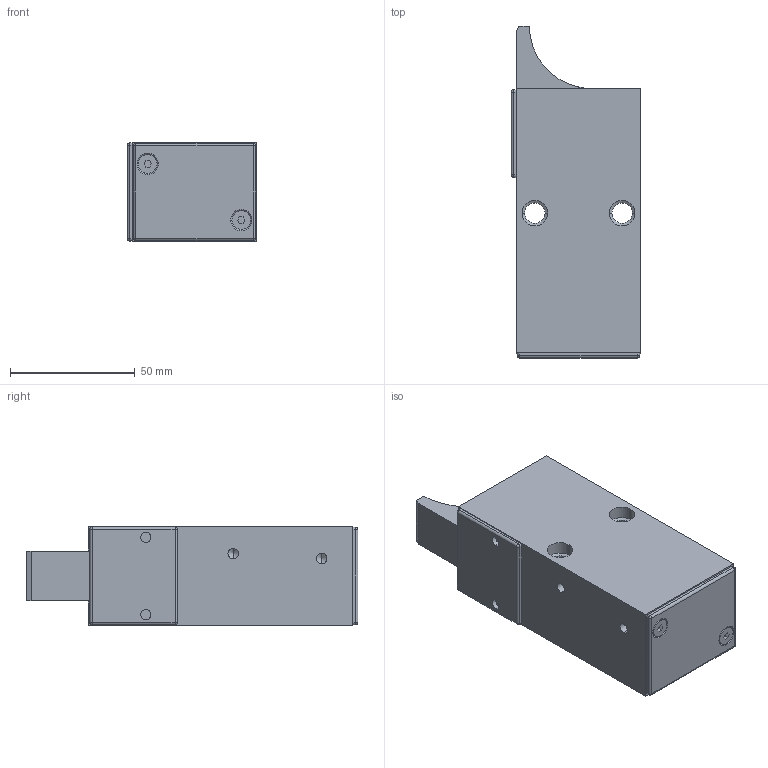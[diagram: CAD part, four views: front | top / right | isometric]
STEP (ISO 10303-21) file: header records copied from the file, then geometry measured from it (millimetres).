
FILE_DESCRIPTION (( 'STEP AP203' ), '1' );
FILE_NAME ('D0400-25-EW-H.STEP', '2011-10-13T08:42:17', ( 'test' ), ( '' ), 'SwSTEP 2.0', 'SolidWorks 2010', '' );
FILE_SCHEMA (( 'CONFIG_CONTROL_DESIGN' ));
Length unit declared in the file: millimetre
Products named in the file (1): D0400-25-EW-H
Bounding box: 52 x 133 x 40 mm (x, y, z)
Volume: 213994.3 mm3; surface area: 32303.7 mm2
Topology: 1 solids, 1 shells, 130 faces, 308 edges, 174 vertices
Faces by surface type: cylinder 53, plane 45, cone 24, sphere 8
Entity records: 3645 total; most frequent: DIRECTION 658, CARTESIAN_POINT 607, ORIENTED_EDGE 576, EDGE_CURVE 288, AXIS2_PLACEMENT_3D 241, VECTOR 176, LINE 176, VERTEX_POINT 174
